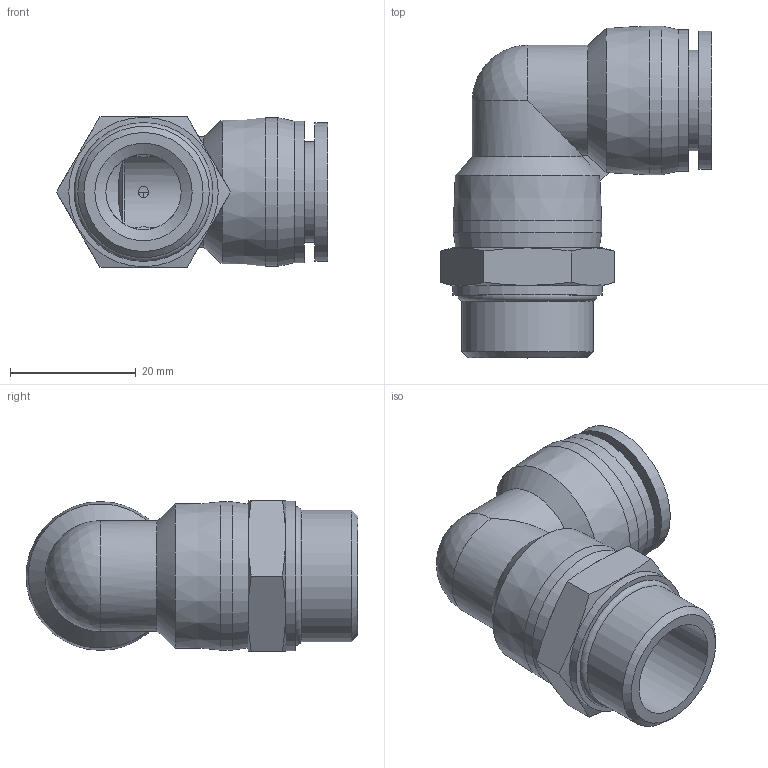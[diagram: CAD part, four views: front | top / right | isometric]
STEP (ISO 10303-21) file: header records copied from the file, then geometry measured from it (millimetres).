
FILE_DESCRIPTION(/* description */ (''),/* implementation_level */ '2;1');
FILE_NAME(/* name */ 'S:\_Tecnico\ArchivioUT\_Disegni3D ingombri\DISEGNI 3D per ingombri\RP\RP 72\RP721214.stp',/* time_stamp */ '2019-08-09T09:08:07+02:00',/* author */ ('ufficiotecnico3'),/* organization */ (''),/* preprocessor_version */ 'ST-DEVELOPER v18',/* originating_system */ 'Autodesk Inventor 2020',/* authorisation */ '');
FILE_SCHEMA (('AUTOMOTIVE_DESIGN { 1 0 10303 214 3 1 1 }'));
Length unit declared in the file: millimetre
Products named in the file (1): RP721214
Bounding box: 43.16 x 52.85 x 24 mm (x, y, z)
Volume: 13987.8 mm3; surface area: 9065.8 mm2
Topology: 1 solids, 1 shells, 59 faces, 148 edges, 97 vertices
Faces by surface type: cone 20, plane 18, cylinder 17, torus 3, sphere 1
Full cylindrical faces by diameter (mm): 12 x1, 14 x1, 15.5 x1, 16 x1, 18.5 x2, 20.955 x1, 22 x1, 22.5 x1, 23.6 x1, 23.7 x1, 23.8 x1
Entity records: 1984 total; most frequent: CARTESIAN_POINT 526, DIRECTION 309, ORIENTED_EDGE 292, EDGE_CURVE 146, AXIS2_PLACEMENT_3D 136, VERTEX_POINT 97, EDGE_LOOP 72, CIRCLE 71
